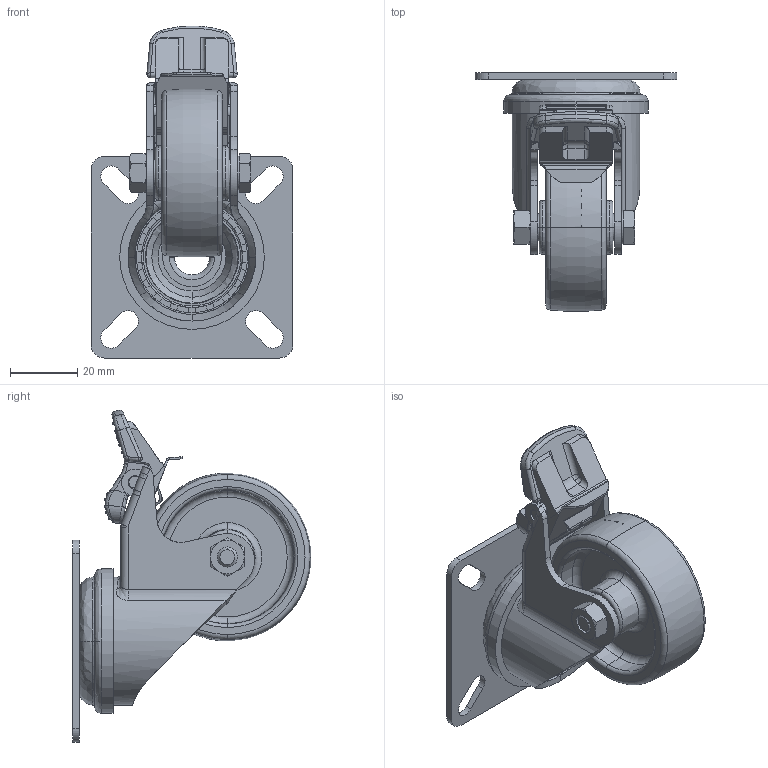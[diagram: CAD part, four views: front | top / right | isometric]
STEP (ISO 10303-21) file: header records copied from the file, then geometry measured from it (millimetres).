
FILE_DESCRIPTION (( 'STEP AP214' ), '1' );
FILE_NAME ('LPXA-PO_50G-FI_754978-214.step', '2013-04-02T12:52:21', ( 'Matthias Senn' ), ( 'Blickle Räder+Rollen' ), 'SwSTEP 2.0', 'SolidWorks 2010', '' );
FILE_SCHEMA (( 'AUTOMOTIVE_DESIGN' ));
Length unit declared in the file: millimetre
Products named in the file (5): AM_LPA_06x27_D8; GH-LPXA_050-FI_G15; PO_G15_PO_50_8G_387316; PO-G-R_G15_PO_50_8G_387316; LPXA-PO_50G-FI_754978-214
Assembly tree (4 placements, depth 3):
  LPXA-PO_50G-FI_754978-214
    GH-LPXA_050-FI_G15
    AM_LPA_06x27_D8
    PO_G15_PO_50_8G_387316
      PO-G-R_G15_PO_50_8G_387316
Bounding box: 60 x 70.95 x 98.73 mm (x, y, z)
Volume: 53906.2 mm3; surface area: 32660.1 mm2
Topology: 3 solids, 3 shells, 1141 faces, 3081 edges, 1970 vertices
Faces by surface type: plane 511, bspline 322, cylinder 243, cone 43, torus 22
Entity records: 66249 total; most frequent: CARTESIAN_POINT 28210, ORIENTED_EDGE 6094, DIRECTION 4006, EDGE_CURVE 3047, VERTEX_POINT 1970, VECTOR 1398, LINE 1398, AXIS2_PLACEMENT_3D 1304
